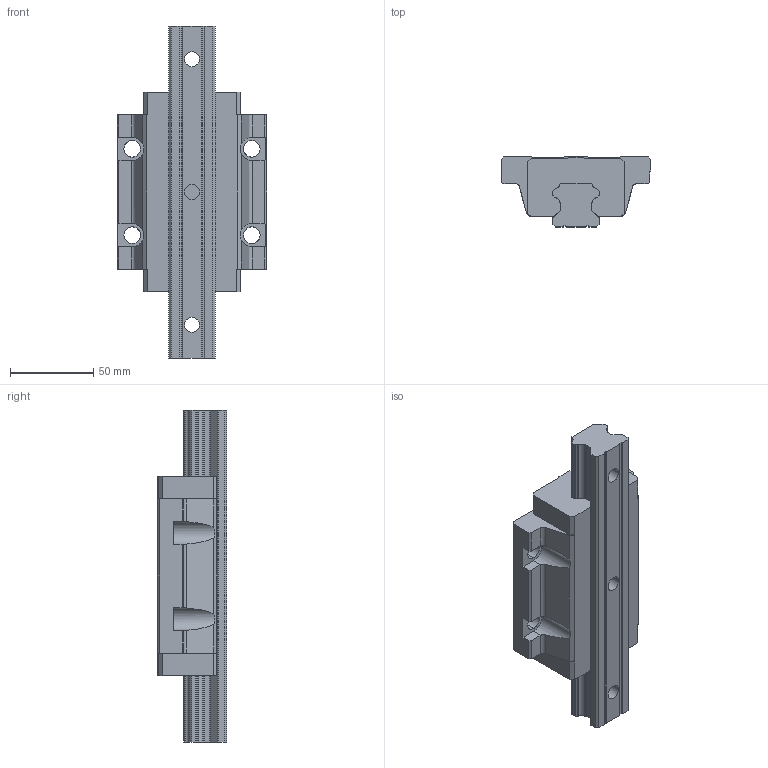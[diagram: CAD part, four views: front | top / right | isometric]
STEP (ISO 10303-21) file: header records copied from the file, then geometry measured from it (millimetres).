
FILE_DESCRIPTION (( 'STEP AP214' ), '1' );
FILE_NAME ('2.1011 Lineaarikelkka HGW30HA.STEP', '2024-04-25T12:28:27', ( '' ), ( '' ), 'SwSTEP 2.0', 'SolidWorks 2024', '' );
FILE_SCHEMA (( 'AUTOMOTIVE_DESIGN' ));
Length unit declared in the file: millimetre
Products named in the file (1): 2.1011 Lineaarikelkka HGW30HA
Bounding box: 90 x 42 x 200 mm (x, y, z)
Volume: 355954.9 mm3; surface area: 64177.8 mm2
Topology: 2 solids, 2 shells, 195 faces, 580 edges, 392 vertices
Faces by surface type: plane 123, cylinder 72
Entity records: 10138 total; most frequent: CARTESIAN_POINT 2834, ORIENTED_EDGE 1160, DIRECTION 934, EDGE_CURVE 580, VERTEX_POINT 392, LINE 384, VECTOR 384, AXIS2_PLACEMENT_3D 275
